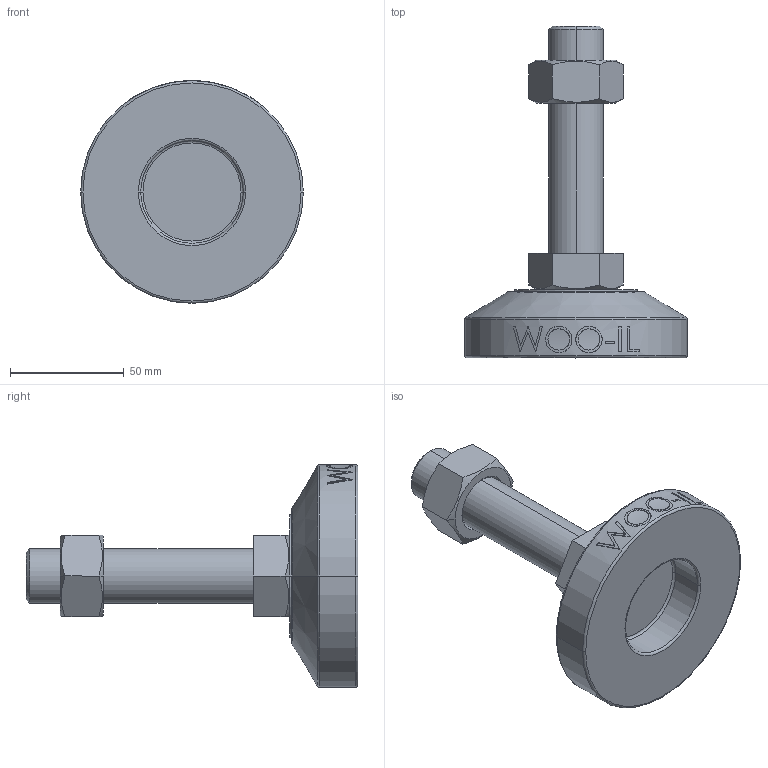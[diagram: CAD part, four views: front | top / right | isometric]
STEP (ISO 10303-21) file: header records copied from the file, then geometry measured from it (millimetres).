
FILE_DESCRIPTION (( 'STEP AP214' ), '1' );
FILE_NAME ('MF98-M24-100.step', '2021-02-03T08:23:17', ( '' ), ( '' ), 'SwSTEP 2.0', 'SolidWorks 2019', '' );
FILE_SCHEMA (( 'AUTOMOTIVE_DESIGN' ));
Length unit declared in the file: millimetre
Products named in the file (2): MF98-M24-100
Bounding box: 98 x 146 x 98 mm (x, y, z)
Volume: 242202.5 mm3; surface area: 39899.3 mm2
Topology: 3 solids, 3 shells, 106 faces, 243 edges, 154 vertices
Faces by surface type: plane 48, cylinder 18, bspline 16, cone 14, torus 10
Entity records: 4702 total; most frequent: CARTESIAN_POINT 2359, ORIENTED_EDGE 486, DIRECTION 439, EDGE_CURVE 243, AXIS2_PLACEMENT_3D 170, VERTEX_POINT 154, EDGE_LOOP 119, FACE_OUTER_BOUND 106
